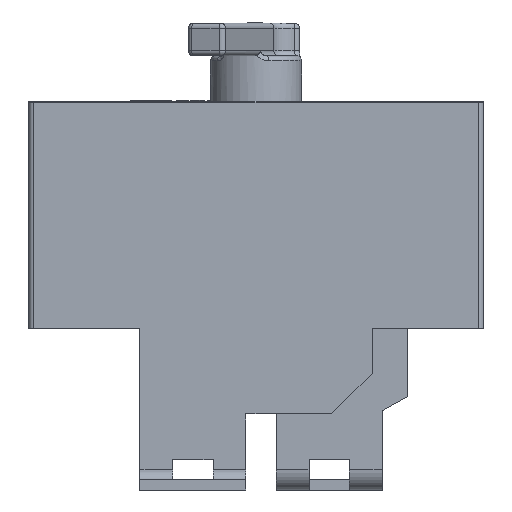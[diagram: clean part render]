
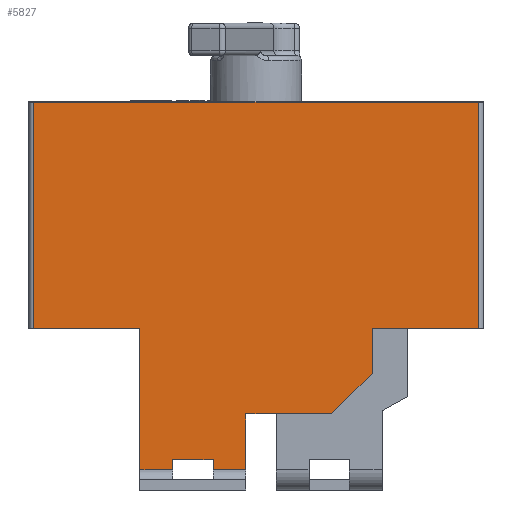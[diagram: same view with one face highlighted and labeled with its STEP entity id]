
A CAD part, front view. The second image highlights one B-rep face of the part: STEP entity #5827.
In plain terms, the highlighted planar face has unit normal (0, -1, 0).
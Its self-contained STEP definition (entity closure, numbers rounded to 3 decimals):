
#54 = VERTEX_POINT ( 'NONE', #4029 ) ;
#195 = CARTESIAN_POINT ( 'NONE',  ( -44., -48.5, 44.8 ) ) ;
#243 = VECTOR ( 'NONE', #2372, 1000. ) ;
#286 = VECTOR ( 'NONE', #4344, 1000. ) ;
#326 = CARTESIAN_POINT ( 'NONE',  ( -2., -48.5, 45. ) ) ;
#443 = VECTOR ( 'NONE', #5866, 1000. ) ;
#470 = VERTEX_POINT ( 'NONE', #1729 ) ;
#537 = VECTOR ( 'NONE', #4053, 1000. ) ;
#599 = DIRECTION ( 'NONE',  ( 1., 0., 0. ) ) ;
#681 = CARTESIAN_POINT ( 'NONE',  ( -23., -48.5, -28. ) ) ;
#694 = LINE ( 'NONE', #3367, #6009 ) ;
#814 = CARTESIAN_POINT ( 'NONE',  ( -45., -48.5, 45. ) ) ;
#946 = CARTESIAN_POINT ( 'NONE',  ( 15., -48.5, -16.927 ) ) ;
#966 = CARTESIAN_POINT ( 'NONE',  ( 44., -48.5, 0. ) ) ;
#1054 = VERTEX_POINT ( 'NONE', #7190 ) ;
#1233 = LINE ( 'NONE', #3497, #4451 ) ;
#1253 = ORIENTED_EDGE ( 'NONE', *, *, #6629, .T. ) ;
#1327 = CARTESIAN_POINT ( 'NONE',  ( -45., -48.5, -16.927 ) ) ;
#1366 = ORIENTED_EDGE ( 'NONE', *, *, #6262, .F. ) ;
#1371 = CARTESIAN_POINT ( 'NONE',  ( -45., -48.5, 44.8 ) ) ;
#1387 = DIRECTION ( 'NONE',  ( 0., 1., 0. ) ) ;
#1423 = CARTESIAN_POINT ( 'NONE',  ( -45., -48.5, 0. ) ) ;
#1460 = CARTESIAN_POINT ( 'NONE',  ( 23., -48.5, -8.927 ) ) ;
#1499 = DIRECTION ( 'NONE',  ( 0., 0., -1. ) ) ;
#1564 = VECTOR ( 'NONE', #599, 1000. ) ;
#1658 = ORIENTED_EDGE ( 'NONE', *, *, #5531, .T. ) ;
#1729 = CARTESIAN_POINT ( 'NONE',  ( -23., -48.5, 0. ) ) ;
#1730 = VECTOR ( 'NONE', #2954, 1000. ) ;
#1734 = CARTESIAN_POINT ( 'NONE',  ( -2., -48.5, -28. ) ) ;
#1784 = VERTEX_POINT ( 'NONE', #195 ) ;
#1838 = DIRECTION ( 'NONE',  ( 0., 0., 1. ) ) ;
#1846 = VECTOR ( 'NONE', #6688, 1000. ) ;
#1851 = ORIENTED_EDGE ( 'NONE', *, *, #5088, .T. ) ;
#1854 = CARTESIAN_POINT ( 'NONE',  ( 23., -48.5, 0. ) ) ;
#1888 = PLANE ( 'NONE',  #5099 ) ;
#2057 = DIRECTION ( 'NONE',  ( 1., 0., 0. ) ) ;
#2130 = ORIENTED_EDGE ( 'NONE', *, *, #6756, .T. ) ;
#2139 = ORIENTED_EDGE ( 'NONE', *, *, #6069, .T. ) ;
#2173 = CARTESIAN_POINT ( 'NONE',  ( -44., -48.5, 45. ) ) ;
#2224 = ORIENTED_EDGE ( 'NONE', *, *, #5771, .T. ) ;
#2372 = DIRECTION ( 'NONE',  ( 0., 0., 1. ) ) ;
#2564 = VECTOR ( 'NONE', #6984, 1000. ) ;
#2606 = LINE ( 'NONE', #3801, #6938 ) ;
#2719 = LINE ( 'NONE', #2173, #286 ) ;
#2782 = EDGE_CURVE ( 'NONE', #6137, #6730, #6991, .T. ) ;
#2863 = LINE ( 'NONE', #1423, #443 ) ;
#2916 = DIRECTION ( 'NONE',  ( 1., 0., 0. ) ) ;
#2954 = DIRECTION ( 'NONE',  ( 1., 0., 0. ) ) ;
#2985 = EDGE_LOOP ( 'NONE', ( #1851, #2130, #4097, #1253, #5103, #6342, #4117, #2224, #1658, #6615, #3311, #1366, #2139, #5460, #7051 ) ) ;
#3073 = VERTEX_POINT ( 'NONE', #1460 ) ;
#3154 = VERTEX_POINT ( 'NONE', #946 ) ;
#3297 = VECTOR ( 'NONE', #3584, 1000. ) ;
#3311 = ORIENTED_EDGE ( 'NONE', *, *, #6160, .F. ) ;
#3367 = CARTESIAN_POINT ( 'NONE',  ( 23., -48.5, -8.927 ) ) ;
#3383 = VECTOR ( 'NONE', #1499, 1000. ) ;
#3480 = EDGE_CURVE ( 'NONE', #470, #5404, #5695, .T. ) ;
#3497 = CARTESIAN_POINT ( 'NONE',  ( -2., -48.5, -28. ) ) ;
#3568 = CARTESIAN_POINT ( 'NONE',  ( -8.5, -48.5, -25.97 ) ) ;
#3584 = DIRECTION ( 'NONE',  ( -1., 0., 0. ) ) ;
#3801 = CARTESIAN_POINT ( 'NONE',  ( -45., -48.5, -25.97 ) ) ;
#3897 = VECTOR ( 'NONE', #6283, 1000. ) ;
#3977 = LINE ( 'NONE', #1327, #3897 ) ;
#4029 = CARTESIAN_POINT ( 'NONE',  ( 44., -48.5, 44.8 ) ) ;
#4053 = DIRECTION ( 'NONE',  ( 0., 0., -1. ) ) ;
#4097 = ORIENTED_EDGE ( 'NONE', *, *, #4656, .T. ) ;
#4117 = ORIENTED_EDGE ( 'NONE', *, *, #2782, .T. ) ;
#4229 = CARTESIAN_POINT ( 'NONE',  ( -16.5, -48.5, -28. ) ) ;
#4344 = DIRECTION ( 'NONE',  ( 0., 0., -1. ) ) ;
#4351 = CARTESIAN_POINT ( 'NONE',  ( -2., -48.5, -28. ) ) ;
#4451 = VECTOR ( 'NONE', #2916, 1000. ) ;
#4564 = VERTEX_POINT ( 'NONE', #966 ) ;
#4656 = EDGE_CURVE ( 'NONE', #1784, #6268, #2719, .T. ) ;
#4954 = LINE ( 'NONE', #5680, #537 ) ;
#4956 = VERTEX_POINT ( 'NONE', #5937 ) ;
#5016 = LINE ( 'NONE', #6305, #1730 ) ;
#5069 = CARTESIAN_POINT ( 'NONE',  ( -44., -48.5, 0. ) ) ;
#5083 = DIRECTION ( 'NONE',  ( 0., 0., 1. ) ) ;
#5088 = EDGE_CURVE ( 'NONE', #4564, #54, #6687, .T. ) ;
#5099 = AXIS2_PLACEMENT_3D ( 'NONE', #814, #1387, #1838 ) ;
#5103 = ORIENTED_EDGE ( 'NONE', *, *, #3480, .T. ) ;
#5121 = VERTEX_POINT ( 'NONE', #1854 ) ;
#5126 = CARTESIAN_POINT ( 'NONE',  ( 23., -48.5, 0. ) ) ;
#5191 = CARTESIAN_POINT ( 'NONE',  ( -23., -48.5, -32. ) ) ;
#5223 = EDGE_CURVE ( 'NONE', #5404, #6137, #1233, .T. ) ;
#5277 = LINE ( 'NONE', #1734, #1564 ) ;
#5404 = VERTEX_POINT ( 'NONE', #681 ) ;
#5460 = ORIENTED_EDGE ( 'NONE', *, *, #6691, .T. ) ;
#5531 = EDGE_CURVE ( 'NONE', #6364, #1054, #4954, .T. ) ;
#5646 = FACE_OUTER_BOUND ( 'NONE', #2985, .T. ) ;
#5680 = CARTESIAN_POINT ( 'NONE',  ( -8.5, -48.5, 45. ) ) ;
#5695 = LINE ( 'NONE', #5191, #2564 ) ;
#5771 = EDGE_CURVE ( 'NONE', #6730, #6364, #2606, .T. ) ;
#5827 = ADVANCED_FACE ( 'NONE', ( #5646 ), #1888, .F. ) ;
#5866 = DIRECTION ( 'NONE',  ( 1., 0., 0. ) ) ;
#5937 = CARTESIAN_POINT ( 'NONE',  ( -2., -48.5, -16.927 ) ) ;
#6001 = LINE ( 'NONE', #326, #3383 ) ;
#6009 = VECTOR ( 'NONE', #6693, 1000. ) ;
#6069 = EDGE_CURVE ( 'NONE', #3154, #3073, #694, .T. ) ;
#6137 = VERTEX_POINT ( 'NONE', #4229 ) ;
#6146 = CARTESIAN_POINT ( 'NONE',  ( 44., -48.5, 45. ) ) ;
#6153 = LINE ( 'NONE', #5126, #243 ) ;
#6160 = EDGE_CURVE ( 'NONE', #4956, #6600, #6001, .T. ) ;
#6204 = EDGE_CURVE ( 'NONE', #1054, #6600, #5277, .T. ) ;
#6262 = EDGE_CURVE ( 'NONE', #3154, #4956, #3977, .T. ) ;
#6268 = VERTEX_POINT ( 'NONE', #5069 ) ;
#6283 = DIRECTION ( 'NONE',  ( -1., 0., 0. ) ) ;
#6303 = VECTOR ( 'NONE', #5083, 1000. ) ;
#6305 = CARTESIAN_POINT ( 'NONE',  ( -45., -48.5, 0. ) ) ;
#6342 = ORIENTED_EDGE ( 'NONE', *, *, #5223, .T. ) ;
#6364 = VERTEX_POINT ( 'NONE', #3568 ) ;
#6600 = VERTEX_POINT ( 'NONE', #4351 ) ;
#6615 = ORIENTED_EDGE ( 'NONE', *, *, #6204, .T. ) ;
#6629 = EDGE_CURVE ( 'NONE', #6268, #470, #5016, .T. ) ;
#6678 = CARTESIAN_POINT ( 'NONE',  ( -16.5, -48.5, 45. ) ) ;
#6687 = LINE ( 'NONE', #6146, #1846 ) ;
#6688 = DIRECTION ( 'NONE',  ( 0., 0., 1. ) ) ;
#6691 = EDGE_CURVE ( 'NONE', #3073, #5121, #6153, .T. ) ;
#6693 = DIRECTION ( 'NONE',  ( 0.707, 0., 0.707 ) ) ;
#6730 = VERTEX_POINT ( 'NONE', #7000 ) ;
#6756 = EDGE_CURVE ( 'NONE', #54, #1784, #6833, .T. ) ;
#6833 = LINE ( 'NONE', #1371, #3297 ) ;
#6893 = EDGE_CURVE ( 'NONE', #5121, #4564, #2863, .T. ) ;
#6938 = VECTOR ( 'NONE', #2057, 1000. ) ;
#6984 = DIRECTION ( 'NONE',  ( 0., 0., -1. ) ) ;
#6991 = LINE ( 'NONE', #6678, #6303 ) ;
#7000 = CARTESIAN_POINT ( 'NONE',  ( -16.5, -48.5, -25.97 ) ) ;
#7051 = ORIENTED_EDGE ( 'NONE', *, *, #6893, .T. ) ;
#7190 = CARTESIAN_POINT ( 'NONE',  ( -8.5, -48.5, -28. ) ) ;
